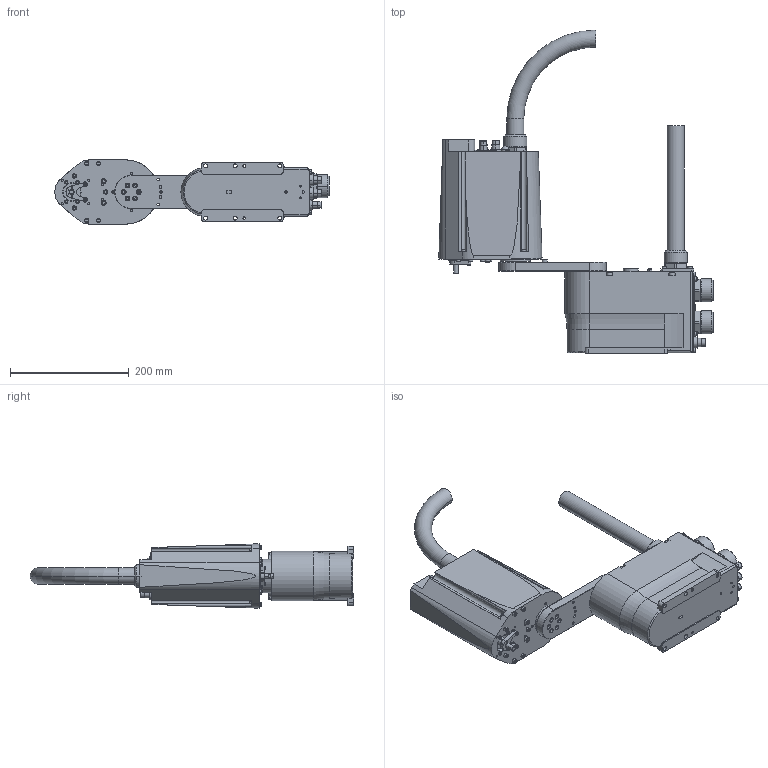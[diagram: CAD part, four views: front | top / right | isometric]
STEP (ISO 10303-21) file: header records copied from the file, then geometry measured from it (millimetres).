
FILE_DESCRIPTION( ( '' ), '1' );
FILE_NAME( '//expscmdclustefs.cadenas.external/client_exchange/iodir/jobs/output/wkb51504338_no0/STEP/G1_221SZ_2_14b.stp', '2012-11-22T13:07:26', ( '' ), ( '' ), ' ', ' ', ' ' );
FILE_SCHEMA( ( 'automotive_design' ) );
Length unit declared in the file: millimetre
Products named in the file (4): 1; 2; 3; 4
Bounding box: 461.7 x 545 x 108 mm (x, y, z)
Volume: 5193753.1 mm3; surface area: 408023.1 mm2
Topology: 4 solids, 6 shells, 1509 faces, 3566 edges, 2319 vertices
Faces by surface type: plane 816, cylinder 514, cone 164, torus 10, sphere 5
Entity records: 85368 total; most frequent: DIRECTION 7824, CARTESIAN_POINT 7686, STYLED_ITEM 7396, PRESENTATION_STYLE_ASSIGNMENT 7396, COLOUR_RGB 7396, ORIENTED_EDGE 7128, EDGE_CURVE 3564, CURVE_STYLE 3564
